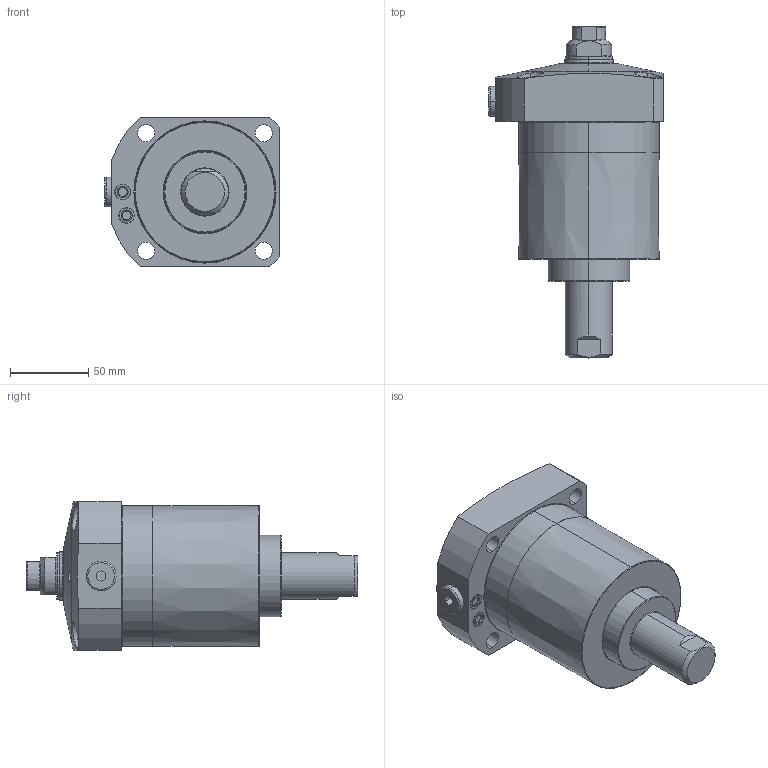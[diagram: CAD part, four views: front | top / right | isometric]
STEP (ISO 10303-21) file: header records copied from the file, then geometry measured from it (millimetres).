
FILE_DESCRIPTION(/* description */ (''),/* implementation_level */ '2;1');
FILE_NAME(/* name */ 'KFSC90-Q.stp',/* time_stamp */ '2026-02-04T15:38:03+08:00',/* author */ (''),/* organization */ (''),/* preprocessor_version */ 'ST-DEVELOPER v16.7',/* originating_system */ 'SIEMENS PLM Software NX 12.0',/* authorisation */ '');
FILE_SCHEMA (('AUTOMOTIVE_DESIGN { 1 0 10303 214 3 1 1 1 }'));
Length unit declared in the file: millimetre
Products named in the file (8): XLC-M16_contactbolt2514; XLC-M16_o-ring5119; KFSC90-Q-01; P7-3; KFSC90-Q-02; KFSC90-Q-04; KFSC90-Q-03; LC0903-C-Q_step
Assembly tree (8 placements, depth 3):
  LC0903-C-Q_step
    KFSC90-Q-04
    KFSC90-Q-03
      XLC-M16_o-ring5119
      XLC-M16_contactbolt2514
    KFSC90-Q-02
    P7-3  x2
    KFSC90-Q-01
Bounding box: 111.5 x 212 x 95 mm (x, y, z)
Volume: 932380.1 mm3; surface area: 82741.7 mm2
Topology: 7 solids, 7 shells, 241 faces, 527 edges, 318 vertices
Faces by surface type: cylinder 73, torus 62, plane 57, cone 47, bspline 2
Entity records: 6927 total; most frequent: CARTESIAN_POINT 1493, DIRECTION 1203, ORIENTED_EDGE 994, AXIS2_PLACEMENT_3D 523, EDGE_CURVE 497, VERTEX_POINT 304, CIRCLE 287, EDGE_LOOP 265
